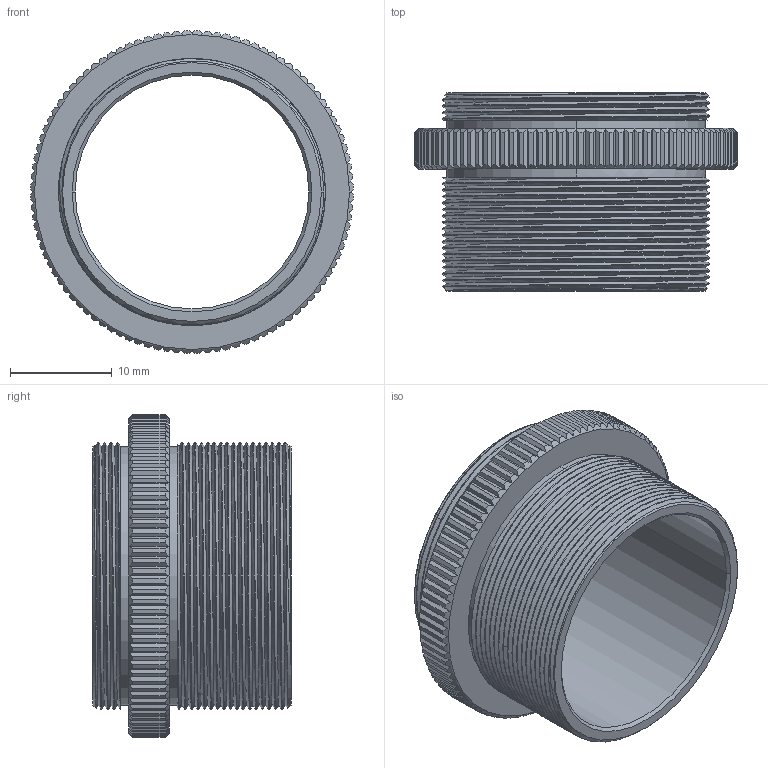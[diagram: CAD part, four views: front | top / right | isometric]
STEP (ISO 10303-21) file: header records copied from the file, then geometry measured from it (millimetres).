
FILE_DESCRIPTION((''),'2;1');
FILE_NAME('CSM1-112','2021-12-20T',('Administrator'),(''),'CREO PARAMETRIC BY PTC INC, 2015290','CREO PARAMETRIC BY PTC INC, 2015290','');
FILE_SCHEMA(('CONFIG_CONTROL_DESIGN'));
Length unit declared in the file: millimetre
Products named in the file (1): CSM1-112
Bounding box: 31.79 x 19.5 x 31.79 mm (x, y, z)
Volume: 3181.9 mm3; surface area: 4557.5 mm2
Topology: 1 solids, 1 shells, 379 faces, 1106 edges, 733 vertices
Faces by surface type: plane 206, cylinder 146, bspline 15, cone 12
Entity records: 19478 total; most frequent: CARTESIAN_POINT 10237, ORIENTED_EDGE 2212, DIRECTION 1551, EDGE_CURVE 1106, VERTEX_POINT 733, AXIS2_PLACEMENT_3D 592, B_SPLINE_CURVE_WITH_KNOTS 511, EDGE_LOOP 385
